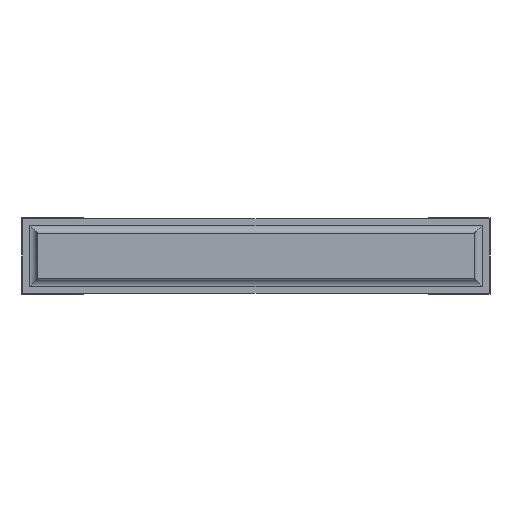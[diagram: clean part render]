
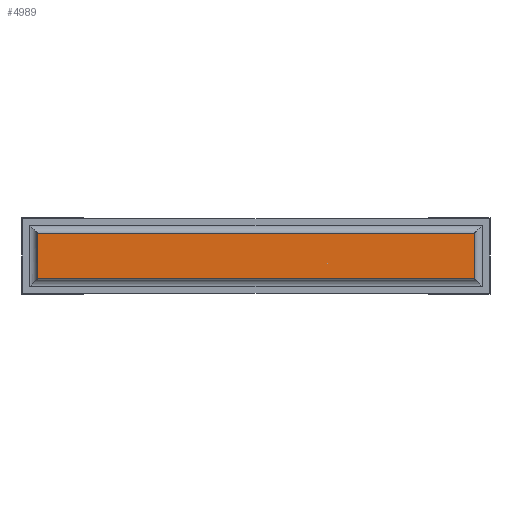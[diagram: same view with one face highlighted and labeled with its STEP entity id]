
A CAD part, front view. The second image highlights one B-rep face of the part: STEP entity #4989.
In plain terms, the highlighted planar face has unit normal (0, -1, 0).
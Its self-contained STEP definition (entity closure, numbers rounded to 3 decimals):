
#67=PLANE('',#5339);
#317=FACE_OUTER_BOUND('',#628,.T.);
#628=EDGE_LOOP('',(#3521,#3522,#3523,#3524));
#948=LINE('',#7117,#1600);
#954=LINE('',#7133,#1606);
#963=LINE('',#7150,#1615);
#964=LINE('',#7152,#1616);
#1600=VECTOR('',#5714,10.);
#1606=VECTOR('',#5728,10.);
#1615=VECTOR('',#5745,10.);
#1616=VECTOR('',#5748,10.);
#2317=VERTEX_POINT('',#7114);
#2318=VERTEX_POINT('',#7116);
#2323=VERTEX_POINT('',#7129);
#2324=VERTEX_POINT('',#7131);
#2774=EDGE_CURVE('',#2318,#2317,#948,.T.);
#2782=EDGE_CURVE('',#2324,#2323,#954,.T.);
#2791=EDGE_CURVE('',#2318,#2324,#963,.T.);
#2792=EDGE_CURVE('',#2323,#2317,#964,.T.);
#3521=ORIENTED_EDGE('',*,*,#2791,.F.);
#3522=ORIENTED_EDGE('',*,*,#2774,.T.);
#3523=ORIENTED_EDGE('',*,*,#2792,.F.);
#3524=ORIENTED_EDGE('',*,*,#2782,.F.);
#4989=ADVANCED_FACE('',(#317),#67,.T.);
#5339=AXIS2_PLACEMENT_3D('',#7151,#5746,#5747);
#5714=DIRECTION('',(0.,0.,-1.));
#5728=DIRECTION('',(0.,0.,-1.));
#5745=DIRECTION('',(1.,0.,0.));
#5746=DIRECTION('center_axis',(0.,-1.,0.));
#5747=DIRECTION('ref_axis',(0.,0.,-1.));
#5748=DIRECTION('',(-1.,0.,0.));
#7114=CARTESIAN_POINT('',(0.1,0.,0.1));
#7116=CARTESIAN_POINT('',(0.1,0.,0.4));
#7117=CARTESIAN_POINT('',(0.1,0.,0.4));
#7129=CARTESIAN_POINT('',(2.96,0.,0.1));
#7131=CARTESIAN_POINT('',(2.96,0.,0.4));
#7133=CARTESIAN_POINT('',(2.96,0.,0.4));
#7150=CARTESIAN_POINT('',(0.1,0.,0.4));
#7151=CARTESIAN_POINT('Origin',(2.96,0.,0.25));
#7152=CARTESIAN_POINT('',(2.96,0.,0.1));
